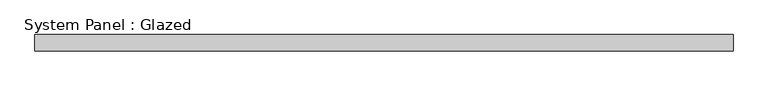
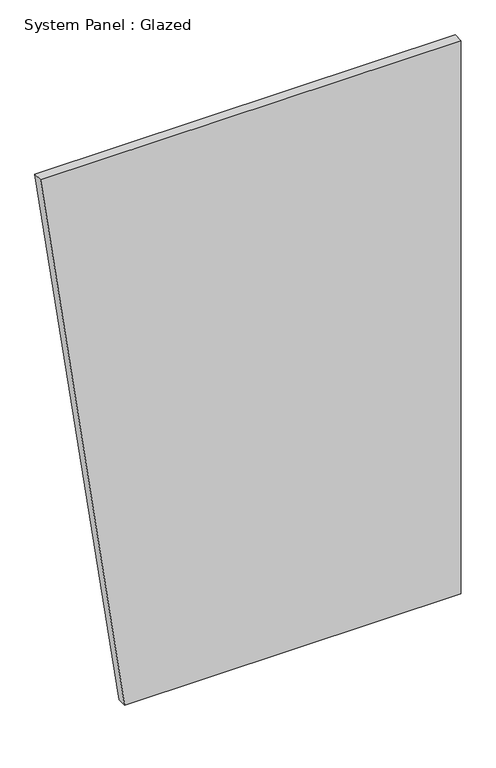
"""IFC4 building model written with IfcOpenShell, lengths in millimetres: plate geometry, System Panel : Glazed."""

from ifc_helpers import new_model, si_unit, frame, origin, place, context, project, spatial, polyline, outline, extrude, source, transform, mapped, element, save


def system_panel_glazed_0fee5127(model_context):
    return source(origin(), model_context, "Body", "SweptSolid", [
        extrude(outline(polyline([(0.0, -328.9208635), (0.0, 548.201439), (1524.0, 548.201439), (1524.0, -548.201439), (0.0, -328.9208635)])), frame((0.0, 19.05, 0.0), z_axis=(0.0, 1.0, 0.0), x_axis=(0.0, 0.0, 1.0)), (0.0, 0.0, 1.0), 25.4),
    ])


if __name__ == "__main__":
    model = new_model("IFC4")
    model_context = context("Model", 3, world=origin())
    ifc_project = project(units=[si_unit("LENGTHUNIT", "METRE", prefix="MILLI")], contexts=[model_context])
    site = spatial("IfcSite", under=ifc_project)
    building = spatial("IfcBuilding", under=site)
    placement = place(None, origin())
    system_panel_glazed_shape = system_panel_glazed_0fee5127(model_context)
    element("IfcPlate", 1, ObjectType="System Panel : Glazed", at=placement, inside=building, context=model_context, shape_type="MappedRepresentation", body=[
        mapped(system_panel_glazed_shape, transform((0.0, 0.0, 0.0), x_axis=(1.0, 0.0, 0.0), y_axis=(0.0, 1.0, 0.0), z_axis=(0.0, 0.0, 1.0))),
    ])
    save(model, "model.ifc")
